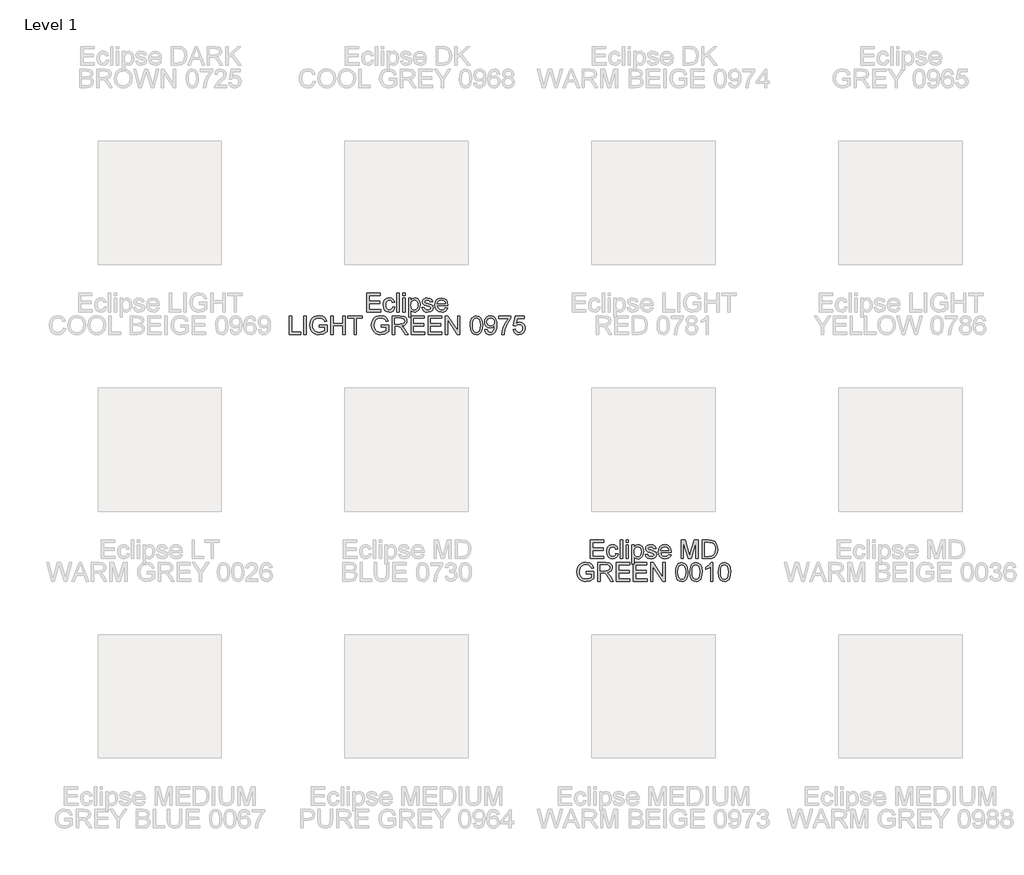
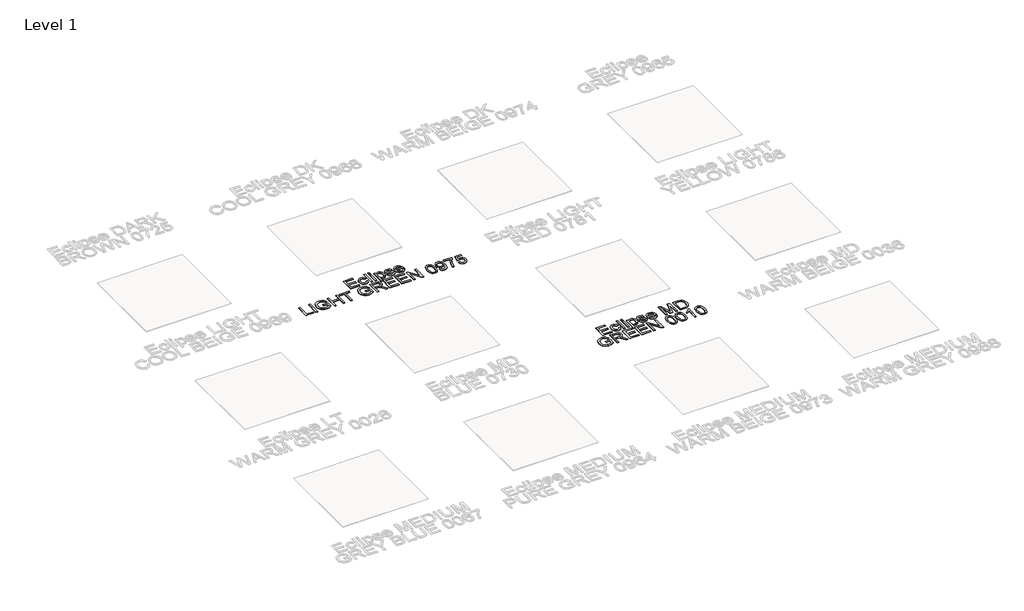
# One storey, part 7 of 13: 2 proxies.
"""IFC4 building model written with IfcOpenShell, lengths in millimetres."""

from ifc_helpers import new_model, si_unit, origin, origin_with_axes, place, context, project, spatial, polyline, outline, extrude, element, save

model = new_model("IFC4")

# Units and contexts
model_context = context("Model", 3, world=origin())
ifc_project = project(units=[si_unit("LENGTHUNIT", "METRE", prefix="MILLI")], contexts=[model_context])

# Site, building, storey
site = spatial("IfcSite", under=ifc_project)
building = spatial("IfcBuilding", under=site)
storey = spatial("IfcBuildingStorey", under=building, Name="Level 1", Elevation=0.0)

# Proxies
placement = place(None, origin())
element("IfcBuildingElementProxy", 1, Name="150mm Arial", ObjectType="150mm Arial", at=placement, inside=storey, context=model_context, shape_type="SweptSolid", body=[
    extrude(outline(polyline([(-255.3225543, -1362.9455422), (-255.3225543, -1212.261077), (-147.0180949, -1212.261077), (-147.0180949, -1231.0966352), (-236.4869961, -1231.0966352), (-236.4869961, -1275.8310858), (-151.7269845, -1275.8310858), (-151.7269845, -1294.6666439), (-236.4869961, -1294.6666439), (-236.4869961, -1344.1099841), (-144.6636501, -1344.1099841), (-144.6636501, -1362.9455422), (-255.3225543, -1362.9455422)])), origin_with_axes(), (0.0, 0.0, 1.0), 5.0),
    extrude(outline(polyline([(-48.1314146, -1322.9199812), (-29.2958565, -1325.2744259), (-34.5473719, -1342.0268523), (-44.4158065, -1354.6865914), (-57.972258, -1362.6466381), (-74.2878245, -1365.299987), (-94.3235976, -1361.5981744), (-109.9907721, -1350.4927367), (-120.1029284, -1332.4711175), (-123.4736472, -1308.0207603), (-122.0343089, -1291.2591369), (-117.716294, -1276.7323967), (-110.4506246, -1265.0015595), (-100.1683228, -1256.6276456), (-87.8672686, -1251.6060564), (-74.5453419, -1249.9321933), (-58.6298471, -1252.2314558), (-45.9057285, -1259.1292432), (-36.7776565, -1270.2576735), (-31.6503012, -1285.2488648), (-50.4858594, -1287.6033096), (-59.2230568, -1273.4950351), (-74.3981891, -1268.7677515), (-86.5704846, -1271.0946051), (-96.2319855, -1278.0751659), (-102.5365632, -1290.0865131), (-104.6380891, -1307.5057256), (-102.5825484, -1325.1594628), (-96.4159265, -1337.2121967), (-86.9291695, -1344.1513708), (-74.9132239, -1346.4644288), (-65.1597525, -1345.020492), (-57.1629176, -1340.6886815), (-51.3457835, -1333.3586328), (-48.1314146, -1322.9199812)])), origin_with_axes(), (0.0, 0.0, 1.0), 5.0),
    extrude(outline(polyline([(-12.8147431, -1362.9455422), (-12.8147431, -1212.261077), (6.0208151, -1212.261077), (6.0208151, -1362.9455422), (-12.8147431, -1362.9455422)])), origin_with_axes(), (0.0, 0.0, 1.0), 5.0),
    extrude(outline(polyline([(34.2741523, -1231.0966352), (34.2741523, -1212.261077), (53.1097105, -1212.261077), (53.1097105, -1231.0966352), (34.2741523, -1231.0966352)])), origin_with_axes(), (0.0, 0.0, 1.0), 5.0),
    extrude(outline(polyline([(34.2741523, -1362.9455422), (34.2741523, -1252.2866381), (53.1097105, -1252.2866381), (53.1097105, -1362.9455422), (34.2741523, -1362.9455422)])), origin_with_axes(), (0.0, 0.0, 1.0), 5.0),
    extrude(outline(polyline([(81.3630477, -1405.3255481), (81.3630477, -1252.2866381), (100.1986058, -1252.2866381), (100.1986058, -1270.7543142), (113.2216285, -1255.1377235), (130.8063878, -1249.9321933), (143.5443019, -1251.7532092), (154.6819293, -1257.2162568), (163.7502205, -1265.9902424), (170.2801259, -1277.7440721), (175.5408385, -1306.7699616), (174.0555149, -1322.8785944), (169.5995442, -1337.2857731), (162.3154807, -1349.260332), (152.3458787, -1358.0711058), (140.7346032, -1363.4927667), (128.5255195, -1365.299987), (112.1363766, -1360.4623388), (100.1986058, -1348.2302624), (100.1986058, -1405.3255481), (81.3630477, -1405.3255481)]), holes=[polyline([(100.1986058, -1308.4990069), (102.2357524, -1325.3847905), (108.347192, -1337.1938026), (117.3648994, -1344.1467723), (128.1208493, -1346.4644288), (139.0515431, -1344.0639988), (148.2991767, -1336.8627088), (154.6037544, -1324.6214354), (156.7052803, -1307.1010554), (154.6543382, -1290.3072423), (148.5015118, -1278.3326833), (139.4976, -1271.1589844), (128.8934015, -1268.7677515), (118.2478162, -1271.3107358), (108.899015, -1278.9396886), (102.3737081, -1291.4154868), (100.1986058, -1308.4990069)])]), origin_with_axes(), (0.0, 0.0, 1.0), 5.0),
    extrude(outline(polyline([(189.6675071, -1329.9833155), (208.5030652, -1327.6288707), (211.4737123, -1335.6854864), (217.2218685, -1341.6083865), (237.1978608, -1346.4644288), (256.401301, -1342.0130567), (262.6552949, -1331.565208), (261.0825994, -1326.764348), (256.3645128, -1323.1039222), (236.9771316, -1317.732845), (208.6134298, -1308.517401), (196.2342007, -1297.7568527), (192.0219518, -1282.5633263), (195.4064662, -1268.5286282), (204.6403043, -1257.804868), (216.6148632, -1252.2314558), (232.8200651, -1249.9321933), (255.7391134, -1253.6294074), (270.3072404, -1263.6357976), (276.7819635, -1280.5399753), (257.9464054, -1282.8944201), (250.864677, -1272.5017537), (234.2915931, -1268.7677515), (216.2653753, -1272.3362068), (210.85751, -1280.6503399), (213.1015902, -1286.1317816), (220.1281363, -1290.2888482), (236.3517323, -1294.2987619), (263.9980642, -1303.164718), (276.8371458, -1313.2078965), (281.4908531, -1329.5786453), (276.0278054, -1347.604863), (260.2640619, -1360.683068), (236.9403434, -1365.299987), (217.9484354, -1363.0743009), (204.0884813, -1356.3972427), (194.8362491, -1345.3423888), (189.6675071, -1329.9833155)])), origin_with_axes(), (0.0, 0.0, 1.0), 5.0),
    extrude(outline(polyline([(380.1568042, -1329.9833155), (398.6244803, -1332.3377602), (391.9704147, -1346.2528967), (381.3524207, -1356.6547601), (367.0096214, -1363.1386803), (349.1811402, -1365.299987), (327.0806293, -1361.5705833), (310.0752841, -1350.3823721), (299.2319623, -1332.4619204), (295.6175217, -1308.5357951), (299.2687505, -1283.804928), (310.2224369, -1265.3096607), (326.9978559, -1253.7765602), (348.1142824, -1249.9321933), (368.5731198, -1253.7673631), (384.920876, -1265.2728725), (395.6400376, -1283.7313516), (399.2130915, -1308.4254305), (399.1027269, -1313.5022021), (314.4530798, -1313.5022021), (317.713434, -1327.6012795), (325.2872046, -1337.9663548), (336.2178984, -1344.3399103), (349.5490222, -1346.4644288), (368.0166983, -1342.5280915), (380.1568042, -1329.9833155)]), holes=[polyline([(314.4530798, -1294.6666439), (380.3775334, -1294.6666439), (377.8299506, -1284.715436), (372.8359525, -1277.5969193), (361.8546749, -1270.9750434), (348.040706, -1268.7677515), (335.3441786, -1270.5289865), (324.8457462, -1275.8126917), (317.5478871, -1284.0486498), (314.4530798, -1294.6666439)])]), origin_with_axes(), (0.0, 0.0, 1.0), 5.0),
    extrude(outline(polyline([(-885.13653, -1545.907769), (-885.13653, -1395.2233038), (-866.3009719, -1395.2233038), (-866.3009719, -1527.0722108), (-790.9587393, -1527.0722108), (-790.9587393, -1545.907769), (-885.13653, -1545.907769)])), origin_with_axes(), (0.0, 0.0, 1.0), 5.0),
    extrude(outline(polyline([(-767.4142916, -1545.907769), (-767.4142916, -1395.2233038), (-748.5787334, -1395.2233038), (-748.5787334, -1545.907769), (-767.4142916, -1545.907769)])), origin_with_axes(), (0.0, 0.0, 1.0), 5.0),
    extrude(outline(polyline([(-640.2742741, -1487.0466498), (-640.2742741, -1468.2110916), (-579.0587101, -1468.2110916), (-579.0587101, -1524.5338251), (-609.280216, -1542.3025254), (-641.2307672, -1548.2622138), (-662.3609893, -1545.8939734), (-681.4586634, -1538.7892524), (-697.3235745, -1527.196371), (-708.7555075, -1511.3636497), (-715.6670904, -1492.3717416), (-717.9709514, -1471.3013004), (-715.6762875, -1450.0791078), (-708.7922957, -1430.3376402), (-697.6040845, -1413.7783519), (-682.3967625, -1402.1026971), (-663.873904, -1395.1773185), (-642.7390834, -1392.868859), (-613.2717356, -1398.221542), (-601.5225044, -1404.6226887), (-592.6151616, -1413.1207628), (-581.2292138, -1438.044768), (-598.593244, -1442.9375985), (-607.1832886, -1425.5183861), (-621.8617802, -1415.4752076), (-643.033389, -1411.7044172), (-667.1480538, -1415.7695132), (-683.5555908, -1426.4380911), (-693.2492814, -1440.9510358), (-699.1353933, -1470.5287482), (-697.3649612, -1488.5411704), (-692.0536649, -1503.3622163), (-683.3624527, -1514.8861198), (-671.4522731, -1523.0071148), (-657.514144, -1527.8217704), (-642.7390834, -1529.4266556), (-616.9689497, -1524.5890074), (-597.8942682, -1514.2699174), (-597.8942682, -1487.0466498), (-640.2742741, -1487.0466498)])), origin_with_axes(), (0.0, 0.0, 1.0), 5.0),
    extrude(outline(polyline([(-548.4509281, -1545.907769), (-548.4509281, -1395.2233038), (-529.6153699, -1395.2233038), (-529.6153699, -1456.4388678), (-449.5642478, -1456.4388678), (-449.5642478, -1395.2233038), (-430.7286896, -1395.2233038), (-430.7286896, -1545.907769), (-449.5642478, -1545.907769), (-449.5642478, -1475.2744259), (-529.6153699, -1475.2744259), (-529.6153699, -1545.907769), (-548.4509281, -1545.907769)])), origin_with_axes(), (0.0, 0.0, 1.0), 5.0),
    extrude(outline(polyline([(-360.0953465, -1545.907769), (-360.0953465, -1414.0588619), (-409.5386867, -1414.0588619), (-409.5386867, -1395.2233038), (-291.8164482, -1395.2233038), (-291.8164482, -1414.0588619), (-341.2597884, -1414.0588619), (-341.2597884, -1545.907769), (-360.0953465, -1545.907769)])), origin_with_axes(), (0.0, 0.0, 1.0), 5.0),
    extrude(outline(polyline([(-141.131983, -1487.0466498), (-141.131983, -1468.2110916), (-79.916419, -1468.2110916), (-79.916419, -1524.5338251), (-110.1379249, -1542.3025254), (-142.0884762, -1548.2622138), (-163.2186983, -1545.8939734), (-182.3163724, -1538.7892524), (-198.1812834, -1527.196371), (-209.6132164, -1511.3636497), (-216.5247994, -1492.3717416), (-218.8286604, -1471.3013004), (-216.5339964, -1450.0791078), (-209.6500046, -1430.3376402), (-198.4617934, -1413.7783519), (-183.2544714, -1402.1026971), (-164.731613, -1395.1773185), (-143.5967924, -1392.868859), (-114.1294445, -1398.221542), (-102.3802133, -1404.6226887), (-93.4728705, -1413.1207628), (-82.0869228, -1438.044768), (-99.4509529, -1442.9375985), (-108.0409975, -1425.5183861), (-122.7194891, -1415.4752076), (-143.891098, -1411.7044172), (-168.0057627, -1415.7695132), (-184.4132997, -1426.4380911), (-194.1069903, -1440.9510358), (-199.9931022, -1470.5287482), (-198.2226701, -1488.5411704), (-192.9113738, -1503.3622163), (-184.2201617, -1514.8861198), (-172.3099821, -1523.0071148), (-158.371853, -1527.8217704), (-143.5967924, -1529.4266556), (-117.8266586, -1524.5890074), (-98.7519772, -1514.2699174), (-98.7519772, -1487.0466498), (-141.131983, -1487.0466498)])), origin_with_axes(), (0.0, 0.0, 1.0), 5.0),
    extrude(outline(polyline([(-49.308637, -1545.907769), (-49.308637, -1395.2233038), (15.6225352, -1395.2233038), (45.7704647, -1399.2883998), (55.050288, -1404.9169943), (62.251578, -1413.6725858), (66.8730956, -1424.5297032), (68.4136015, -1436.4628754), (65.8614201, -1451.3069139), (58.2048761, -1463.6125667), (45.2140431, -1472.6348726), (26.658995, -1477.6288707), (37.3643611, -1485.6854864), (52.6314639, -1505.0728675), (77.7578041, -1545.907769), (55.8688254, -1545.907769), (36.2607151, -1514.6745876), (22.0972583, -1493.9996195), (12.1460503, -1484.2323525), (3.1881237, -1480.6455031), (-7.7379715, -1479.9833155), (-30.4730788, -1479.9833155), (-30.4730788, -1545.907769), (-49.308637, -1545.907769)]), holes=[polyline([(-30.4730788, -1461.1477573), (11.6861978, -1461.1477573), (33.1889004, -1458.4806128), (45.4025827, -1449.9457506), (49.5780433, -1437.1618512), (47.586882, -1427.9739984), (41.6133981, -1420.5703732), (31.3356949, -1415.6867398), (16.4318755, -1414.0588619), (-30.4730788, -1414.0588619), (-30.4730788, -1461.1477573)])]), origin_with_axes(), (0.0, 0.0, 1.0), 5.0),
    extrude(outline(polyline([(101.3758282, -1545.907769), (101.3758282, -1395.2233038), (209.6802876, -1395.2233038), (209.6802876, -1414.0588619), (120.2113864, -1414.0588619), (120.2113864, -1458.7933125), (204.9713981, -1458.7933125), (204.9713981, -1477.6288707), (120.2113864, -1477.6288707), (120.2113864, -1527.0722108), (212.0347324, -1527.0722108), (212.0347324, -1545.907769), (101.3758282, -1545.907769)])), origin_with_axes(), (0.0, 0.0, 1.0), 5.0),
    extrude(outline(polyline([(240.2880696, -1545.907769), (240.2880696, -1395.2233038), (348.592529, -1395.2233038), (348.592529, -1414.0588619), (259.1236278, -1414.0588619), (259.1236278, -1458.7933125), (343.8836394, -1458.7933125), (343.8836394, -1477.6288707), (259.1236278, -1477.6288707), (259.1236278, -1527.0722108), (350.9469738, -1527.0722108), (350.9469738, -1545.907769), (240.2880696, -1545.907769)])), origin_with_axes(), (0.0, 0.0, 1.0), 5.0),
    extrude(outline(polyline([(379.200311, -1545.907769), (379.200311, -1395.2233038), (399.3602443, -1395.2233038), (478.0869913, -1514.6010112), (478.0869913, -1395.2233038), (496.9225494, -1395.2233038), (496.9225494, -1545.907769), (476.7626161, -1545.907769), (398.0358691, -1426.4932734), (398.0358691, -1545.907769), (379.200311, -1545.907769)])), origin_with_axes(), (0.0, 0.0, 1.0), 5.0),
    extrude(outline(polyline([(581.6825611, -1471.779547), (583.0667171, -1447.6602837), (587.2191852, -1428.4246538), (594.0985785, -1413.7783519), (603.6635103, -1403.4270723), (615.9829587, -1397.2742459), (631.1259013, -1395.2233038), (653.1252446, -1400.0793461), (668.318771, -1414.077256), (677.1479389, -1436.3709049), (680.5692414, -1471.779547), (679.198881, -1495.7608545), (675.0877997, -1514.9504991), (668.2497931, -1529.6105966), (658.6986568, -1540.003263), (646.3516174, -1546.1974761), (631.1259013, -1548.2622138), (611.5545791, -1544.6753643), (596.6921465, -1533.914816), (585.4349575, -1508.4297907), (581.6825611, -1471.779547)]), holes=[polyline([(600.5181193, -1471.7427588), (602.7254113, -1501.371055), (609.3472872, -1518.5189545), (619.2065246, -1526.6997303), (631.1259013, -1529.4266556), (643.0452779, -1526.6905333), (652.9045154, -1518.4821663), (659.5263913, -1501.3250697), (661.7336833, -1471.7427588), (659.5999677, -1442.7812487), (653.198821, -1425.499992), (643.3579776, -1416.9191444), (630.9051721, -1414.0588619), (619.1145541, -1416.5788536), (609.6415928, -1424.1388286), (602.7989877, -1442.4961402), (600.5181193, -1471.7427588)])]), origin_with_axes(), (0.0, 0.0, 1.0), 5.0),
    extrude(outline(polyline([(699.4047996, -1508.2366527), (718.2403577, -1505.8822079), (721.4593252, -1516.5737784), (726.7016436, -1523.8532434), (733.8385543, -1528.0333026), (742.7412986, -1529.4266556), (757.9900073, -1525.8398062), (768.3274914, -1516.2564802), (774.4895148, -1499.8857314), (777.2118416, -1478.0335409), (777.101477, -1474.3547209), (762.0367093, -1488.6285423), (741.3801352, -1494.1099841), (724.2046446, -1490.7622579), (709.9078305, -1480.7190795), (700.2647237, -1465.2036563), (697.0503548, -1445.4391961), (700.4210736, -1425.0217454), (710.5332299, -1409.0188786), (725.7221578, -1398.6721975), (744.3231912, -1395.2233038), (758.3716849, -1397.1914724), (771.1601827, -1403.0959785), (781.8563518, -1412.6425162), (789.6278589, -1425.5367802), (794.3597411, -1443.3606628), (795.9370351, -1467.6960568), (794.3643396, -1493.4983803), (789.646253, -1513.4421829), (781.8241621, -1528.4287757), (770.9394535, -1539.3594695), (757.4611769, -1546.0365277), (741.8583818, -1548.2622138), (725.7543475, -1545.636456), (712.9060688, -1537.7591828), (703.9205511, -1525.1270348), (699.4047996, -1508.2366527)]), holes=[polyline([(777.101477, -1444.9977377), (775.0689289, -1432.2322325), (768.9712849, -1422.4097832), (759.5075205, -1416.1465922), (747.3766118, -1414.0588619), (734.7950475, -1416.3075406), (724.7150809, -1423.0535767), (718.0932049, -1433.3772652), (715.885913, -1446.3589011), (717.9736433, -1457.9977677), (724.2368343, -1467.2362043), (734.0684806, -1473.2648705), (746.861577, -1475.2744259), (758.8959167, -1473.2648705), (768.5850088, -1467.2362043), (774.9723599, -1457.6574769), (777.101477, -1444.9977377)])]), origin_with_axes(), (0.0, 0.0, 1.0), 5.0),
    extrude(outline(polyline([(812.4181485, -1416.4133067), (812.4181485, -1397.5777485), (911.3048288, -1397.5777485), (911.3048288, -1412.8080631), (883.2538267, -1453.3302649), (870.9435754, -1478.7922975), (861.7879123, -1504.9625029), (854.7981543, -1545.907769), (835.9625962, -1545.907769), (843.4489948, -1503.4173986), (852.1631996, -1478.9578444), (863.9952042, -1455.3904041), (892.4692707, -1416.4133067), (812.4181485, -1416.4133067)])), origin_with_axes(), (0.0, 0.0, 1.0), 5.0),
    extrude(outline(polyline([(927.7859422, -1505.8822079), (946.6215003, -1503.5277632), (950.0795911, -1514.835536), (956.1128558, -1522.9335384), (964.6937034, -1527.8033763), (975.7945426, -1529.4266556), (989.2958118, -1527.1687799), (999.4125667, -1520.3951526), (1005.7309399, -1509.8875231), (1007.8370643, -1496.4276406), (1005.8642971, -1483.7541059), (999.9459955, -1474.0604153), (990.0361743, -1467.907589), (976.0888482, -1465.8566468), (959.5525525, -1469.1307966), (948.9759451, -1477.6288707), (930.140387, -1475.2744259), (946.6215003, -1397.5777485), (1019.6092882, -1397.5777485), (1019.6092882, -1416.4133067), (961.8518149, -1416.4133067), (953.7951993, -1457.9103958), (967.2504832, -1449.7434155), (981.3495607, -1447.0210887), (998.9481156, -1450.396406), (1013.5576294, -1460.5223579), (1023.3938742, -1475.9550076), (1026.6726225, -1495.2504183), (1023.7203695, -1514.0859764), (1014.8636104, -1530.1992078), (997.9042505, -1543.7464623), (975.7209662, -1548.2622138), (957.2211003, -1545.3605445), (942.4828279, -1536.6555368), (932.3798686, -1523.1588661), (927.7859422, -1505.8822079)])), origin_with_axes(), (0.0, 0.0, 1.0), 5.0),
])
element("IfcBuildingElementProxy", 2, Name="150mm Arial", ObjectType="150mm Arial", at=placement, inside=storey, context=model_context, shape_type="SweptSolid", body=[
    extrude(outline(polyline([(1553.9674194, -3362.9455422), (1553.9674194, -3212.261077), (1662.2718788, -3212.261077), (1662.2718788, -3231.0966352), (1572.8029776, -3231.0966352), (1572.8029776, -3275.8310858), (1657.5629892, -3275.8310858), (1657.5629892, -3294.6666439), (1572.8029776, -3294.6666439), (1572.8029776, -3344.1099841), (1664.6263236, -3344.1099841), (1664.6263236, -3362.9455422), (1553.9674194, -3362.9455422)])), origin_with_axes(), (0.0, 0.0, 1.0), 5.0),
    extrude(outline(polyline([(1761.1585591, -3322.9199812), (1779.9941172, -3325.2744259), (1774.7426018, -3342.0268523), (1764.8741672, -3354.6865914), (1751.3177157, -3362.6466381), (1735.0021492, -3365.299987), (1714.9663761, -3361.5981744), (1699.2992016, -3350.4927367), (1689.1870453, -3332.4711175), (1685.8163265, -3308.0207603), (1687.2556648, -3291.2591369), (1691.5736797, -3276.7323967), (1698.8393491, -3265.0015595), (1709.1216509, -3256.6276456), (1721.4227051, -3251.6060564), (1734.7446318, -3249.9321933), (1750.6601266, -3252.2314558), (1763.3842452, -3259.1292432), (1772.5123172, -3270.2576735), (1777.6396725, -3285.2488648), (1758.8041143, -3287.6033096), (1750.0669169, -3273.4950351), (1734.8917846, -3268.7677515), (1722.7194891, -3271.0946051), (1713.0579882, -3278.0751659), (1706.7534105, -3290.0865131), (1704.6518846, -3307.5057256), (1706.7074253, -3325.1594628), (1712.8740472, -3337.2121967), (1722.3608042, -3344.1513708), (1734.3767498, -3346.4644288), (1744.1302212, -3345.020492), (1752.1270561, -3340.6886815), (1757.9441902, -3333.3586328), (1761.1585591, -3322.9199812)])), origin_with_axes(), (0.0, 0.0, 1.0), 5.0),
    extrude(outline(polyline([(1796.4752306, -3362.9455422), (1796.4752306, -3212.261077), (1815.3107888, -3212.261077), (1815.3107888, -3362.9455422), (1796.4752306, -3362.9455422)])), origin_with_axes(), (0.0, 0.0, 1.0), 5.0),
    extrude(outline(polyline([(1843.564126, -3231.0966352), (1843.564126, -3212.261077), (1862.3996842, -3212.261077), (1862.3996842, -3231.0966352), (1843.564126, -3231.0966352)])), origin_with_axes(), (0.0, 0.0, 1.0), 5.0),
    extrude(outline(polyline([(1843.564126, -3362.9455422), (1843.564126, -3252.2866381), (1862.3996842, -3252.2866381), (1862.3996842, -3362.9455422), (1843.564126, -3362.9455422)])), origin_with_axes(), (0.0, 0.0, 1.0), 5.0),
    extrude(outline(polyline([(1890.6530214, -3405.3255481), (1890.6530214, -3252.2866381), (1909.4885795, -3252.2866381), (1909.4885795, -3270.7543142), (1922.5116022, -3255.1377235), (1940.0963615, -3249.9321933), (1952.8342756, -3251.7532092), (1963.971903, -3257.2162568), (1973.0401942, -3265.9902424), (1979.5700996, -3277.7440721), (1984.8308122, -3306.7699616), (1983.3454886, -3322.8785944), (1978.8895179, -3337.2857731), (1971.6054544, -3349.260332), (1961.6358524, -3358.0711058), (1950.0245769, -3363.4927667), (1937.8154932, -3365.299987), (1921.4263503, -3360.4623388), (1909.4885795, -3348.2302624), (1909.4885795, -3405.3255481), (1890.6530214, -3405.3255481)]), holes=[polyline([(1909.4885795, -3308.4990069), (1911.5257261, -3325.3847905), (1917.6371657, -3337.1938026), (1926.6548731, -3344.1467723), (1937.410823, -3346.4644288), (1948.3415168, -3344.0639988), (1957.5891504, -3336.8627088), (1963.8937281, -3324.6214354), (1965.995254, -3307.1010554), (1963.9443119, -3290.3072423), (1957.7914855, -3278.3326833), (1948.7875737, -3271.1589844), (1938.1833752, -3268.7677515), (1927.5377899, -3271.3107358), (1918.1889887, -3278.9396886), (1911.6636818, -3291.4154868), (1909.4885795, -3308.4990069)])]), origin_with_axes(), (0.0, 0.0, 1.0), 5.0),
    extrude(outline(polyline([(1998.9574808, -3329.9833155), (2017.7930389, -3327.6288707), (2020.763686, -3335.6854864), (2026.5118422, -3341.6083865), (2046.4878345, -3346.4644288), (2065.6912747, -3342.0130567), (2071.9452686, -3331.565208), (2070.3725731, -3326.764348), (2065.6544865, -3323.1039222), (2046.2671053, -3317.732845), (2017.9034035, -3308.517401), (2005.5241744, -3297.7568527), (2001.3119255, -3282.5633263), (2004.6964399, -3268.5286282), (2013.930278, -3257.804868), (2025.9048369, -3252.2314558), (2042.1100388, -3249.9321933), (2065.0290871, -3253.6294074), (2079.5972141, -3263.6357976), (2086.0719372, -3280.5399753), (2067.2363791, -3282.8944201), (2060.1546507, -3272.5017537), (2043.5815668, -3268.7677515), (2025.555349, -3272.3362068), (2020.1474837, -3280.6503399), (2022.3915639, -3286.1317816), (2029.41811, -3290.2888482), (2045.641706, -3294.2987619), (2073.2880379, -3303.164718), (2086.1271195, -3313.2078965), (2090.7808268, -3329.5786453), (2085.3177791, -3347.604863), (2069.5540356, -3360.683068), (2046.2303171, -3365.299987), (2027.2384091, -3363.0743009), (2013.378455, -3356.3972427), (2004.1262228, -3345.3423888), (1998.9574808, -3329.9833155)])), origin_with_axes(), (0.0, 0.0, 1.0), 5.0),
    extrude(outline(polyline([(2189.4467779, -3329.9833155), (2207.914454, -3332.3377602), (2201.2603884, -3346.2528967), (2190.6423944, -3356.6547601), (2176.2995951, -3363.1386803), (2158.4711139, -3365.299987), (2136.370603, -3361.5705833), (2119.3652578, -3350.3823721), (2108.521936, -3332.4619204), (2104.9074954, -3308.5357951), (2108.5587242, -3283.804928), (2119.5124106, -3265.3096607), (2136.2878296, -3253.7765602), (2157.4042561, -3249.9321933), (2177.8630935, -3253.7673631), (2194.2108497, -3265.2728725), (2204.9300113, -3283.7313516), (2208.5030652, -3308.4254305), (2208.3927006, -3313.5022021), (2123.7430535, -3313.5022021), (2127.0034077, -3327.6012795), (2134.5771783, -3337.9663548), (2145.5078721, -3344.3399103), (2158.8389959, -3346.4644288), (2177.306672, -3342.5280915), (2189.4467779, -3329.9833155)]), holes=[polyline([(2123.7430535, -3294.6666439), (2189.6675071, -3294.6666439), (2187.1199243, -3284.715436), (2182.1259262, -3277.5969193), (2171.1446486, -3270.9750434), (2157.3306797, -3268.7677515), (2144.6341523, -3270.5289865), (2134.1357199, -3275.8126917), (2126.8378608, -3284.0486498), (2123.7430535, -3294.6666439)])]), origin_with_axes(), (0.0, 0.0, 1.0), 5.0),
    extrude(outline(polyline([(2288.5541874, -3362.9455422), (2288.5541874, -3212.261077), (2320.9645911, -3212.261077), (2351.7931023, -3318.468609), (2358.0103081, -3340.6518933), (2364.7425486, -3316.629199), (2395.056025, -3212.261077), (2427.4664288, -3212.261077), (2427.4664288, -3362.9455422), (2408.6308706, -3362.9455422), (2408.6308706, -3231.0966352), (2370.7758133, -3362.9455422), (2345.2448028, -3362.9455422), (2307.3897455, -3231.0966352), (2307.3897455, -3362.9455422), (2288.5541874, -3362.9455422)])), origin_with_axes(), (0.0, 0.0, 1.0), 5.0),
    extrude(outline(polyline([(2460.4286555, -3362.9455422), (2460.4286555, -3212.261077), (2512.4103814, -3212.261077), (2539.3025553, -3214.4315808), (2561.4490514, -3225.2105232), (2571.8693089, -3236.6884415), (2579.2913282, -3250.9622629), (2583.7335033, -3267.756076), (2585.2142283, -3286.7939692), (2581.2043145, -3317.1994161), (2570.9036187, -3339.1435771), (2557.1448321, -3352.8103933), (2539.1370084, -3360.3703683), (2514.911979, -3362.9455422), (2460.4286555, -3362.9455422)]), holes=[polyline([(2479.2642137, -3344.1099841), (2512.5943224, -3344.1099841), (2536.8377459, -3341.3876573), (2550.8172617, -3333.6989236), (2562.2767859, -3314.9921242), (2566.3786701, -3286.4996636), (2564.3691147, -3265.9718483), (2558.3404485, -3250.8151101), (2549.4331057, -3240.4040496), (2538.7875205, -3234.1132675), (2512.0792876, -3231.0966352), (2479.2642137, -3231.0966352), (2479.2642137, -3344.1099841)])]), origin_with_axes(), (0.0, 0.0, 1.0), 5.0),
    extrude(outline(polyline([(1522.182415, -3487.0466498), (1522.182415, -3468.2110916), (1583.397979, -3468.2110916), (1583.397979, -3524.5338251), (1553.1764731, -3542.3025254), (1521.2259218, -3548.2622138), (1500.0956997, -3545.8939734), (1480.9980257, -3538.7892524), (1465.1331146, -3527.196371), (1453.7011816, -3511.3636497), (1446.7895986, -3492.3717416), (1444.4857376, -3471.3013004), (1446.7804016, -3450.0791078), (1453.6643934, -3430.3376402), (1464.8526046, -3413.7783519), (1480.0599266, -3402.1026971), (1498.582785, -3395.1773185), (1519.7176057, -3392.868859), (1549.1849535, -3398.221542), (1560.9341847, -3404.6226887), (1569.8415275, -3413.1207628), (1581.2274752, -3438.044768), (1563.8634451, -3442.9375985), (1555.2734005, -3425.5183861), (1540.5949089, -3415.4752076), (1519.4233001, -3411.7044172), (1495.3086353, -3415.7695132), (1478.9010983, -3426.4380911), (1469.2074077, -3440.9510358), (1463.3212958, -3470.5287482), (1465.0917279, -3488.5411704), (1470.4030242, -3503.3622163), (1479.0942363, -3514.8861198), (1491.0044159, -3523.0071148), (1504.942545, -3527.8217704), (1519.7176057, -3529.4266556), (1545.4877394, -3524.5890074), (1564.5624209, -3514.2699174), (1564.5624209, -3487.0466498), (1522.182415, -3487.0466498)])), origin_with_axes(), (0.0, 0.0, 1.0), 5.0),
    extrude(outline(polyline([(1614.005761, -3545.907769), (1614.005761, -3395.2233038), (1678.9369332, -3395.2233038), (1709.0848627, -3399.2883998), (1718.364686, -3404.9169943), (1725.5659761, -3413.6725858), (1730.1874936, -3424.5297032), (1731.7279995, -3436.4628754), (1729.1758181, -3451.3069139), (1721.5192741, -3463.6125667), (1708.5284412, -3472.6348726), (1689.973393, -3477.6288707), (1700.6787591, -3485.6854864), (1715.9458619, -3505.0728675), (1741.0722021, -3545.907769), (1719.1832234, -3545.907769), (1699.5751131, -3514.6745876), (1685.4116563, -3493.9996195), (1675.4604483, -3484.2323525), (1666.5025217, -3480.6455031), (1655.5764265, -3479.9833155), (1632.8413192, -3479.9833155), (1632.8413192, -3545.907769), (1614.005761, -3545.907769)]), holes=[polyline([(1632.8413192, -3461.1477573), (1675.0005958, -3461.1477573), (1696.5032984, -3458.4806128), (1708.7169807, -3449.9457506), (1712.8924413, -3437.1618512), (1710.90128, -3427.9739984), (1704.9277961, -3420.5703732), (1694.6500929, -3415.6867398), (1679.7462736, -3414.0588619), (1632.8413192, -3414.0588619), (1632.8413192, -3461.1477573)])]), origin_with_axes(), (0.0, 0.0, 1.0), 5.0),
    extrude(outline(polyline([(1764.6902262, -3545.907769), (1764.6902262, -3395.2233038), (1872.9946856, -3395.2233038), (1872.9946856, -3414.0588619), (1783.5257844, -3414.0588619), (1783.5257844, -3458.7933125), (1868.2857961, -3458.7933125), (1868.2857961, -3477.6288707), (1783.5257844, -3477.6288707), (1783.5257844, -3527.0722108), (1875.3491304, -3527.0722108), (1875.3491304, -3545.907769), (1764.6902262, -3545.907769)])), origin_with_axes(), (0.0, 0.0, 1.0), 5.0),
    extrude(outline(polyline([(1903.6024676, -3545.907769), (1903.6024676, -3395.2233038), (2011.906927, -3395.2233038), (2011.906927, -3414.0588619), (1922.4380258, -3414.0588619), (1922.4380258, -3458.7933125), (2007.1980375, -3458.7933125), (2007.1980375, -3477.6288707), (1922.4380258, -3477.6288707), (1922.4380258, -3527.0722108), (2014.2613718, -3527.0722108), (2014.2613718, -3545.907769), (1903.6024676, -3545.907769)])), origin_with_axes(), (0.0, 0.0, 1.0), 5.0),
    extrude(outline(polyline([(2042.514709, -3545.907769), (2042.514709, -3395.2233038), (2062.6746423, -3395.2233038), (2141.4013893, -3514.6010112), (2141.4013893, -3395.2233038), (2160.2369475, -3395.2233038), (2160.2369475, -3545.907769), (2140.0770141, -3545.907769), (2061.3502672, -3426.4932734), (2061.3502672, -3545.907769), (2042.514709, -3545.907769)])), origin_with_axes(), (0.0, 0.0, 1.0), 5.0),
    extrude(outline(polyline([(2244.9969591, -3471.779547), (2246.3811151, -3447.6602837), (2250.5335832, -3428.4246538), (2257.4129765, -3413.7783519), (2266.9779084, -3403.4270723), (2279.2973567, -3397.2742459), (2294.4402993, -3395.2233038), (2316.4396426, -3400.0793461), (2331.633169, -3414.077256), (2340.4623369, -3436.3709049), (2343.8836394, -3471.779547), (2342.513279, -3495.7608545), (2338.4021977, -3514.9504991), (2331.5641911, -3529.6105966), (2322.0130548, -3540.003263), (2309.6660154, -3546.1974761), (2294.4402993, -3548.2622138), (2274.8689772, -3544.6753643), (2260.0065445, -3533.914816), (2248.7493555, -3508.4297907), (2244.9969591, -3471.779547)]), holes=[polyline([(2263.8325173, -3471.7427588), (2266.0398093, -3501.371055), (2272.6616852, -3518.5189545), (2282.5209227, -3526.6997303), (2294.4402993, -3529.4266556), (2306.3596759, -3526.6905333), (2316.2189134, -3518.4821663), (2322.8407893, -3501.3250697), (2325.0480813, -3471.7427588), (2322.9143657, -3442.7812487), (2316.513219, -3425.499992), (2306.6723756, -3416.9191444), (2294.2195701, -3414.0588619), (2282.4289522, -3416.5788536), (2272.9559908, -3424.1388286), (2266.1133857, -3442.4961402), (2263.8325173, -3471.7427588)])]), origin_with_axes(), (0.0, 0.0, 1.0), 5.0),
    extrude(outline(polyline([(2360.3647528, -3471.779547), (2361.7489088, -3447.6602837), (2365.9013769, -3428.4246538), (2372.7807702, -3413.7783519), (2382.345702, -3403.4270723), (2394.6651504, -3397.2742459), (2409.808093, -3395.2233038), (2431.8074363, -3400.0793461), (2447.0009627, -3414.077256), (2455.8301306, -3436.3709049), (2459.2514331, -3471.779547), (2457.8810727, -3495.7608545), (2453.7699914, -3514.9504991), (2446.9319848, -3529.6105966), (2437.3808485, -3540.003263), (2425.0338091, -3546.1974761), (2409.808093, -3548.2622138), (2390.2367708, -3544.6753643), (2375.3743382, -3533.914816), (2364.1171492, -3508.4297907), (2360.3647528, -3471.779547)]), holes=[polyline([(2379.200311, -3471.7427588), (2381.407603, -3501.371055), (2388.0294789, -3518.5189545), (2397.8887163, -3526.6997303), (2409.808093, -3529.4266556), (2421.7274696, -3526.6905333), (2431.5867071, -3518.4821663), (2438.208583, -3501.3250697), (2440.415875, -3471.7427588), (2438.2821594, -3442.7812487), (2431.8810127, -3425.499992), (2422.0401693, -3416.9191444), (2409.5873638, -3414.0588619), (2397.7967458, -3416.5788536), (2388.3237845, -3424.1388286), (2381.4811794, -3442.4961402), (2379.200311, -3471.7427588)])]), origin_with_axes(), (0.0, 0.0, 1.0), 5.0),
    extrude(outline(polyline([(2546.3658896, -3545.907769), (2527.5303314, -3545.907769), (2527.5303314, -3428.4798361), (2509.6880547, -3441.1901591), (2489.8592151, -3450.6999086), (2489.8592151, -3432.8944201), (2517.4687589, -3415.2728725), (2534.2257838, -3395.2233038), (2546.3658896, -3395.2233038), (2546.3658896, -3545.907769)])), origin_with_axes(), (0.0, 0.0, 1.0), 5.0),
    extrude(outline(polyline([(2591.1003402, -3471.779547), (2592.4844962, -3447.6602837), (2596.6369642, -3428.4246538), (2603.5163575, -3413.7783519), (2613.0812894, -3403.4270723), (2625.4007377, -3397.2742459), (2640.5436804, -3395.2233038), (2662.5430237, -3400.0793461), (2677.7365501, -3414.077256), (2686.565718, -3436.3709049), (2689.9870205, -3471.779547), (2688.6166601, -3495.7608545), (2684.5055788, -3514.9504991), (2677.6675722, -3529.6105966), (2668.1164359, -3540.003263), (2655.7693964, -3546.1974761), (2640.5436804, -3548.2622138), (2620.9723582, -3544.6753643), (2606.1099256, -3533.914816), (2594.8527366, -3508.4297907), (2591.1003402, -3471.779547)]), holes=[polyline([(2609.9358984, -3471.7427588), (2612.1431903, -3501.371055), (2618.7650662, -3518.5189545), (2628.6243037, -3526.6997303), (2640.5436804, -3529.4266556), (2652.463057, -3526.6905333), (2662.3222945, -3518.4821663), (2668.9441704, -3501.3250697), (2671.1514624, -3471.7427588), (2669.0177468, -3442.7812487), (2662.6166001, -3425.499992), (2652.7757567, -3416.9191444), (2640.3229512, -3414.0588619), (2628.5323332, -3416.5788536), (2619.0593718, -3424.1388286), (2612.2167667, -3442.4961402), (2609.9358984, -3471.7427588)])]), origin_with_axes(), (0.0, 0.0, 1.0), 5.0),
])

save(model, "model.ifc")
